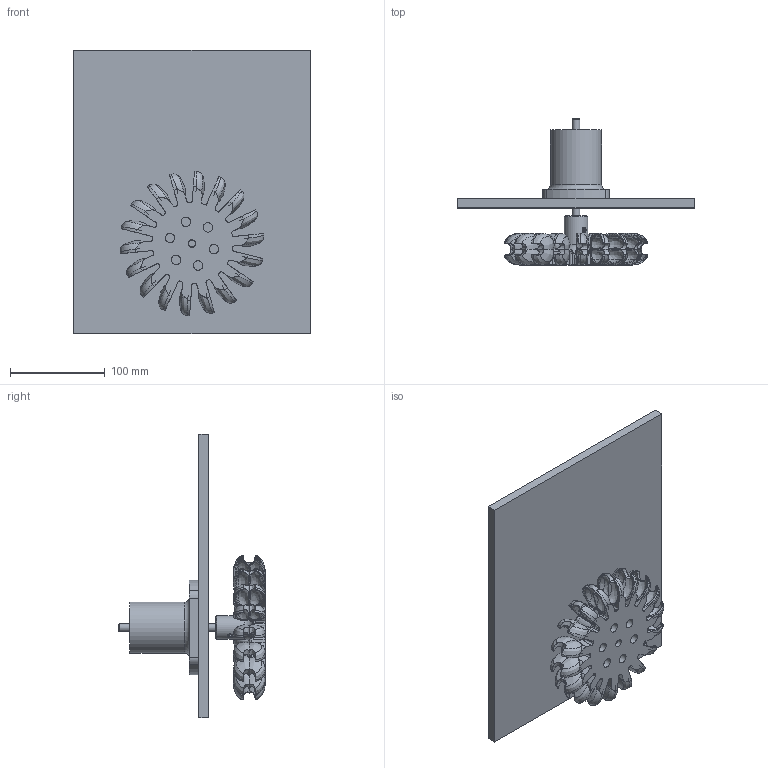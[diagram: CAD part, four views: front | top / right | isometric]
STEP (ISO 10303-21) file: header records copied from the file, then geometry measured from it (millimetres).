
FILE_DESCRIPTION(/* description */ (''),/* implementation_level */ '2;1');
FILE_NAME(/* name */ 'Assieme_pelton_small1.stp',/* time_stamp */ '2025-05-04T17:53:58+02:00',/* author */ ('R5800u'),/* organization */ (''),/* preprocessor_version */ 'ST-DEVELOPER v20',/* originating_system */ 'Autodesk Inventor 2025',/* authorisation */ '');
FILE_SCHEMA (('AUTOMOTIVE_DESIGN { 1 0 10303 214 3 1 1 }'));
Products named in the file (10): Assieme_pelton_small1; albero_8mm; %3% BS 290 - SKF 608; giunto02; blocco_albero; anello_22x2; blocco_per_vite_m3; tavolo; AS 1420 - 1973 - M3 x 14; pala_pelton_MIR
Assembly tree (12 placements, depth 2):
  Assieme_pelton_small1
    albero_8mm
    %3% BS 290 - SKF 608  x2
    blocco_per_vite_m3  x2
    giunto02
    blocco_albero
    anello_22x2
    tavolo
    AS 1420 - 1973 - M3 x 14  x2
    pala_pelton_MIR
Bounding box: 250 x 154.5 x 300 mm (x, y, z)
Volume: 1120702.4 mm3; surface area: 299251.5 mm2
Topology: 30 solids, 30 shells, 1141 faces, 2969 edges, 1876 vertices
Faces by surface type: bspline 469, plane 296, cylinder 228, torus 123, cone 13, sphere 12
Full cylindrical faces by diameter (mm): 3 x2, 3.2 x6, 4.562 x2, 5.3 x1, 5.4 x4, 5.5 x8, 8 x3, 8.1 x1, 9 x1, 10 x10, 12.48 x4, 17 x1, 17.52 x4, 18.9 x1, 22 x3, 22.1 x1, 25 x1, 32 x1, 38 x3, 54 x1
Entity records: 155026 total; most frequent: CARTESIAN_POINT 130957, ORIENTED_EDGE 5612, DIRECTION 3501, EDGE_CURVE 2806, VERTEX_POINT 1764, AXIS2_PLACEMENT_3D 1390, B_SPLINE_CURVE_WITH_KNOTS 1320, EDGE_LOOP 1150
